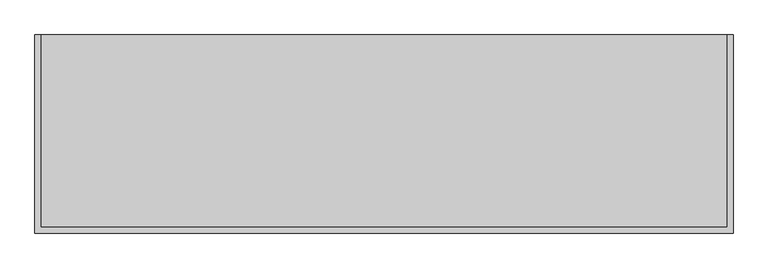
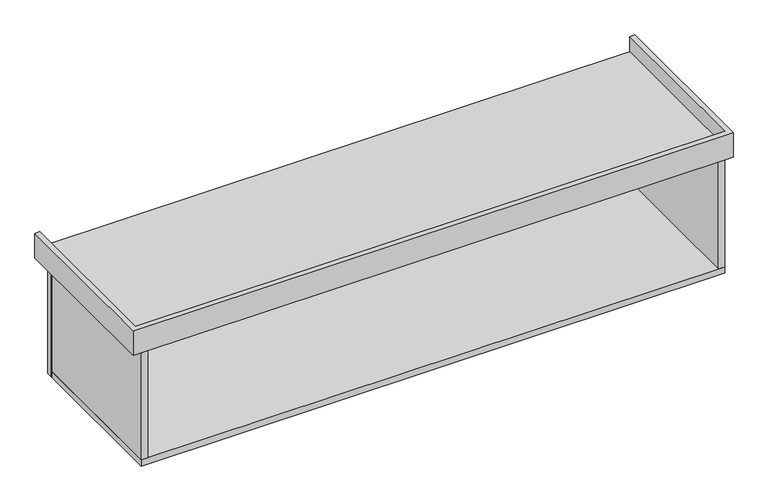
"""IFC4 building model written with IfcOpenShell, lengths in millimetres: furniture geometry, Mueble colgado 2 cajones al lado - lavabo sobreponer : MB3-mueble baño colgado-2 cajones al lado 185."""

from ifc_helpers import new_model, si_unit, frame, origin, place, context, project, spatial, polyline, outline, extrude, faceted_brep, source, transform, mapped, element, save


def furniture_772ddd76(model_context):
    return source(origin(), model_context, "Body", "SolidModel", [
        extrude(outline(polyline([(-775.0, 490.0), (-775.0, 510.0), (120.0, 510.0), (120.0, 490.0), (-775.0, 490.0)])), frame((0.0, 0.0, 350.0), z_axis=(0.0, 0.0, 1.0), x_axis=(1.0, 0.0, 0.0)), (0.0, 0.0, 1.0), 360.0),
        faceted_brep([(-800.0, 535.0, 800.0), (-785.0, 535.0, 800.0), (-785.0, 535.0, 750.0), (1035.0, 535.0, 750.0), (1035.0, 535.0, 800.0), (1050.0, 535.0, 800.0), (1050.0, 535.0, 720.0), (-800.0, 535.0, 720.0), (-800.0, 10.0, 800.0), (1050.0, 10.0, 800.0), (1035.0, 25.0, 800.0), (-785.0, 25.0, 800.0), (-785.0, 25.0, 750.0), (-800.0, 10.0, 720.0), (1035.0, 25.0, 750.0), (1050.0, 10.0, 720.0)], [[[0, 1, 2, 3, 4, 5, 6, 7]], [[1, 0, 8, 9, 5, 4, 10, 11]], [[2, 1, 11, 12]], [[0, 7, 13, 8]], [[11, 10, 14, 12]], [[9, 8, 13, 15]], [[10, 4, 3, 14]], [[6, 5, 9, 15]], [[3, 2, 12, 14]], [[6, 15, 13, 7]]]),
        extrude(outline(polyline([(1025.0, 510.0), (1025.0, 490.0), (130.0, 490.0), (130.0, 510.0), (1025.0, 510.0)])), frame((0.0, 0.0, 350.0), z_axis=(0.0, 0.0, 1.0), x_axis=(1.0, 0.0, 0.0)), (0.0, 0.0, 1.0), 360.0),
        extrude(outline(polyline([(1025.0, 10.0), (1005.0, 10.0), (1005.0, 485.0), (1025.0, 485.0), (1025.0, 10.0)])), frame((0.0, 0.0, 370.0), z_axis=(0.0, 0.0, 1.0), x_axis=(1.0, 0.0, 0.0)), (0.0, 0.0, 1.0), 350.0),
        extrude(outline(polyline([(-755.0, 10.0), (-775.0, 10.0), (-775.0, 485.0), (-755.0, 485.0), (-755.0, 10.0)])), frame((0.0, 0.0, 370.0), z_axis=(0.0, 0.0, 1.0), x_axis=(1.0, 0.0, 0.0)), (0.0, 0.0, 1.0), 350.0),
        extrude(outline(polyline([(1025.0, 485.0), (1025.0, 10.0), (-775.0, 10.0), (-775.0, 485.0), (1025.0, 485.0)])), frame((0.0, 0.0, 350.0), z_axis=(0.0, 0.0, 1.0), x_axis=(1.0, 0.0, 0.0)), (0.0, 0.0, 1.0), 20.0),
    ])


if __name__ == "__main__":
    model = new_model("IFC4")
    model_context = context("Model", 3, world=origin())
    ifc_project = project(units=[si_unit("LENGTHUNIT", "METRE", prefix="MILLI")], contexts=[model_context])
    site = spatial("IfcSite", under=ifc_project)
    building = spatial("IfcBuilding", under=site)
    placement = place(None, origin())
    furniture_shape = furniture_772ddd76(model_context)
    element("IfcFurniture", 1, ObjectType="Mueble colgado 2 cajones al lado - lavabo sobreponer : MB3-mueble baño colgado-2 cajones al lado 185", at=placement, inside=building, context=model_context, shape_type="MappedRepresentation", body=[
        mapped(furniture_shape, transform((0.0, 0.0, 0.0), x_axis=(1.0, 0.0, 0.0), y_axis=(0.0, 1.0, 0.0), z_axis=(0.0, 0.0, 1.0))),
    ])
    save(model, "model.ifc")
